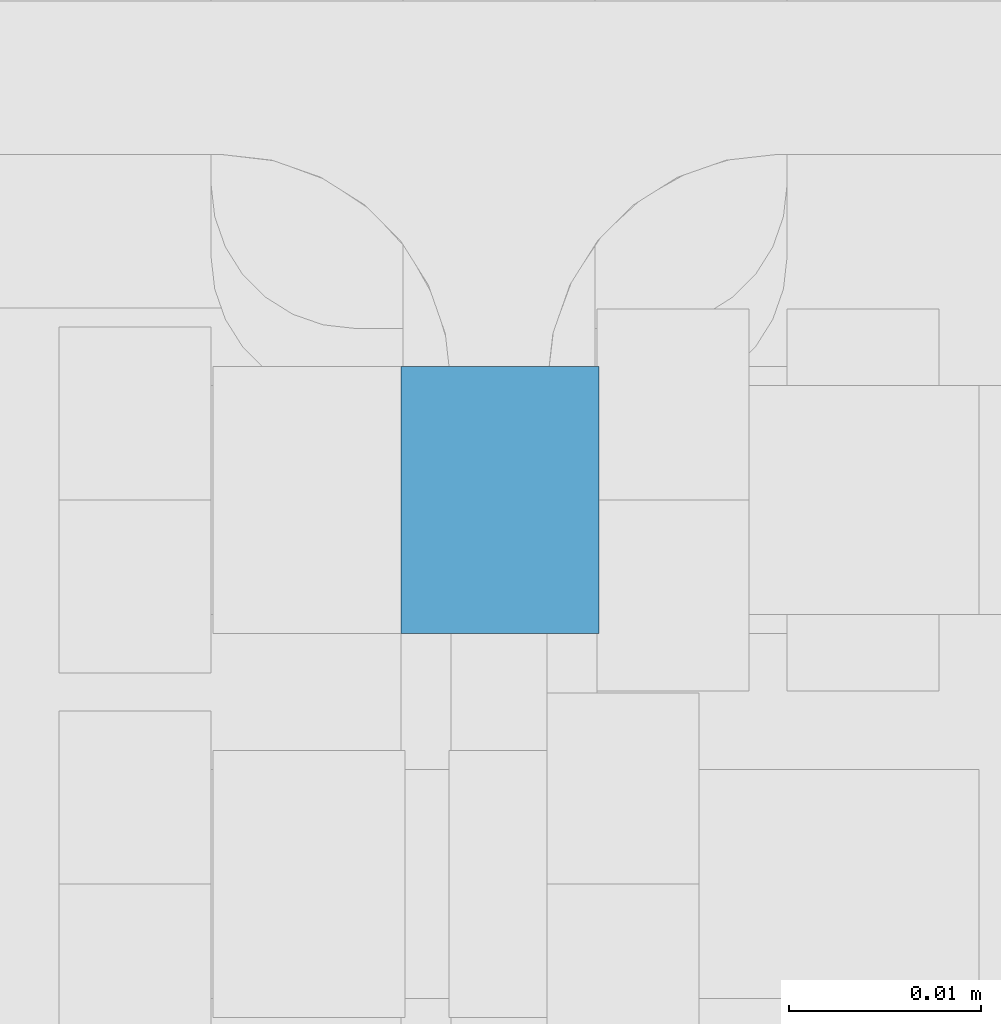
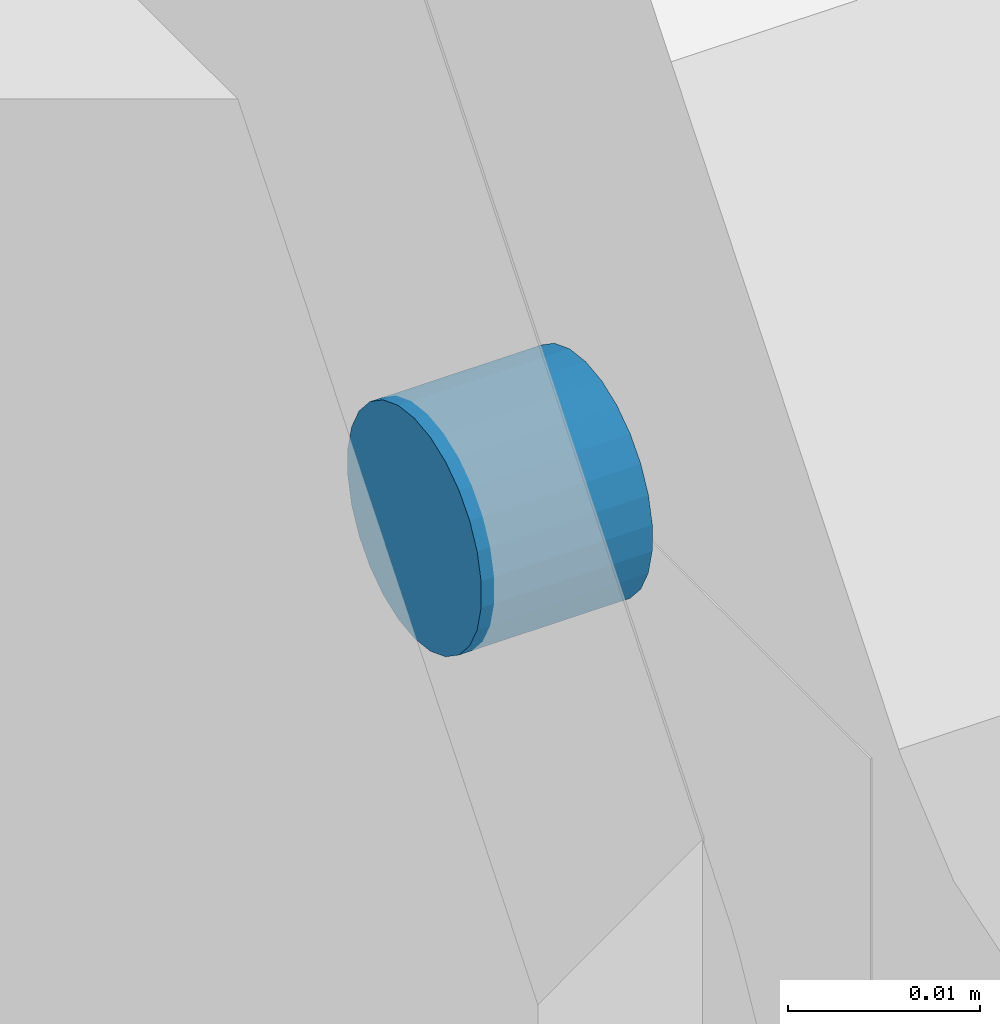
# One storey, part 214 of 362: 1 mechanical fastener.
"""IFC2X3 building model written with IfcOpenShell, lengths in millimetres."""

from ifc_helpers import new_model, si_unit, frame, origin_with_axes, origin_2d_with_axis, place, context, subcontext, project, spatial, circle, extrude, source, transform, mapped, material, type_object, element, save


model = new_model("IFC2X3")

# Units and contexts
model_context = context("Model", 3, precision=1e-05, world=origin_with_axes())
body_context = subcontext(model_context, "Body", "Model", "MODEL_VIEW")
ifc_project = project(units=[si_unit("LENGTHUNIT", "METRE", prefix="MILLI"), si_unit("AREAUNIT", "SQUARE_METRE"), si_unit("VOLUMEUNIT", "CUBIC_METRE"), si_unit("MASSUNIT", "GRAM", prefix="KILO"), si_unit("TIMEUNIT", "SECOND"), si_unit("PLANEANGLEUNIT", "RADIAN"), si_unit("SOLIDANGLEUNIT", "STERADIAN"), si_unit("THERMODYNAMICTEMPERATUREUNIT", "DEGREE_CELSIUS"), si_unit("LUMINOUSINTENSITYUNIT", "LUMEN")], contexts=[model_context])

# Site, building, storey
site_placement = place(None, origin_with_axes())
site = spatial("IfcSite", under=ifc_project, at=site_placement, Name="Undefined", CompositionType="ELEMENT")
building_placement = place(site_placement, origin_with_axes())
building = spatial("IfcBuilding", under=site, at=building_placement, Name="Undefined", CompositionType="ELEMENT")
storey_placement = place(building_placement, origin_with_axes())
storey = spatial("IfcBuildingStorey", under=building, at=storey_placement, Name="Undefined", CompositionType="ELEMENT", Elevation=0.0)

# Mechanical fastener
ifc_material = material(Name="8.8-SB-ZINGUE")
mechanical_fastener_type = type_object("IfcMechanicalFastenerType", Name="Bolt assembly")
shared_shape = source(origin_with_axes(), body_context, "Body", "SweptSolid", [
    extrude(circle(Radius=7.0, at=origin_2d_with_axis()), frame((0.0, -5.10183049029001, 0.0), z_axis=(0.0, 1.0, 0.0), x_axis=(1.0, 0.0, 0.0)), (0.0, 0.0, 1.0), 10.3),
])
mechanical_fastener_placement = place(storey_placement, frame((8480.0, -110.000006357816, 2760.0), z_axis=(0.0, 1.0, 0.0), x_axis=(0.0, 0.0, 1.0)))
element("IfcMechanicalFastener", 1, at=mechanical_fastener_placement, inside=storey, type_object=mechanical_fastener_type, material=ifc_material, Name="Bolt assembly", NominalDiameter=12.0, NominalLength=10.1999998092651, context=body_context, shape_type="MappedRepresentation", body=[
    mapped(shared_shape, transform((0.0, 0.0, 0.0))),
])

save(model, "model.ifc")
